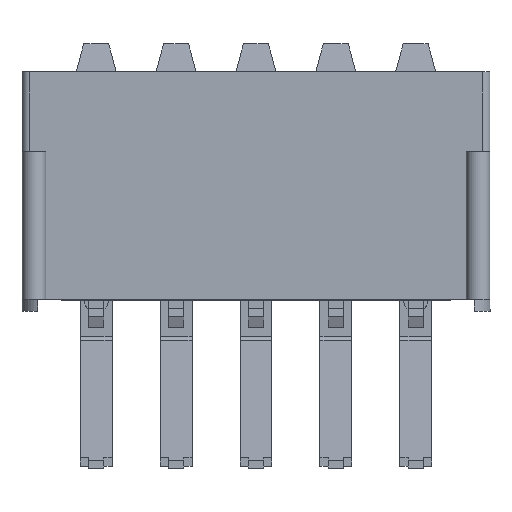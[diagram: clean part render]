
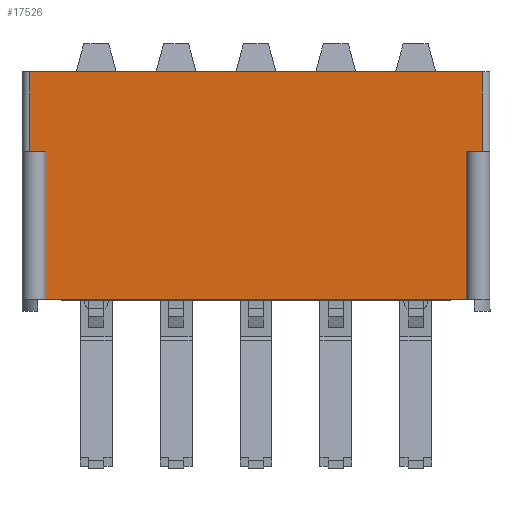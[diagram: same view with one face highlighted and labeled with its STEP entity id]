
A CAD part, front view. The second image highlights one B-rep face of the part: STEP entity #17526.
In plain terms, the highlighted planar face has unit normal (0, -1, 0).
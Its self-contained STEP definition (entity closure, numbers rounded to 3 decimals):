
#355 = CARTESIAN_POINT ( 'NONE',  ( 14.634, -9.652, 0. ) ) ;
#538 = DIRECTION ( 'NONE',  ( 1., 0., 0. ) ) ;
#994 = ORIENTED_EDGE ( 'NONE', *, *, #4171, .T. ) ;
#1123 = CARTESIAN_POINT ( 'NONE',  ( 0.762, -9.652, -2.54 ) ) ;
#1183 = VECTOR ( 'NONE', #538, 1000. ) ;
#1434 = ORIENTED_EDGE ( 'NONE', *, *, #14722, .T. ) ;
#2606 = DIRECTION ( 'NONE',  ( 0., 0., -1. ) ) ;
#2833 = LINE ( 'NONE', #11385, #19896 ) ;
#2902 = VERTEX_POINT ( 'NONE', #18917 ) ;
#3162 = CARTESIAN_POINT ( 'NONE',  ( 14.122, -9.652, -7.239 ) ) ;
#3704 = VECTOR ( 'NONE', #2606, 1000. ) ;
#4171 = EDGE_CURVE ( 'NONE', #21722, #5835, #19021, .T. ) ;
#4809 = CARTESIAN_POINT ( 'NONE',  ( 0.25, -9.652, -2.54 ) ) ;
#4929 = ORIENTED_EDGE ( 'NONE', *, *, #21841, .F. ) ;
#4940 = EDGE_CURVE ( 'NONE', #9820, #2902, #20999, .T. ) ;
#5804 = CARTESIAN_POINT ( 'NONE',  ( 0.25, -9.652, 0. ) ) ;
#5835 = VERTEX_POINT ( 'NONE', #3162 ) ;
#6271 = CARTESIAN_POINT ( 'NONE',  ( 0.762, -9.652, -7.239 ) ) ;
#6733 = DIRECTION ( 'NONE',  ( -1., 0., 0. ) ) ;
#6804 = DIRECTION ( 'NONE',  ( 0., 0., -1. ) ) ;
#7817 = DIRECTION ( 'NONE',  ( 1., 0., 0. ) ) ;
#8342 = VERTEX_POINT ( 'NONE', #355 ) ;
#8383 = CARTESIAN_POINT ( 'NONE',  ( 0.25, -9.652, -7.239 ) ) ;
#8406 = LINE ( 'NONE', #17423, #17291 ) ;
#8543 = EDGE_CURVE ( 'NONE', #19915, #21722, #17928, .T. ) ;
#9207 = LINE ( 'NONE', #5804, #9826 ) ;
#9657 = CARTESIAN_POINT ( 'NONE',  ( 14.122, -9.652, -2.54 ) ) ;
#9800 = CARTESIAN_POINT ( 'NONE',  ( 0.762, -9.652, -2.54 ) ) ;
#9820 = VERTEX_POINT ( 'NONE', #20391 ) ;
#9826 = VECTOR ( 'NONE', #7817, 1000. ) ;
#10112 = LINE ( 'NONE', #4809, #16960 ) ;
#10258 = CARTESIAN_POINT ( 'NONE',  ( 14.634, -9.652, -2.54 ) ) ;
#10398 = DIRECTION ( 'NONE',  ( 0., 0., 1. ) ) ;
#10402 = LINE ( 'NONE', #17500, #19532 ) ;
#11385 = CARTESIAN_POINT ( 'NONE',  ( 0.25, -9.652, -2.54 ) ) ;
#11596 = ORIENTED_EDGE ( 'NONE', *, *, #8543, .T. ) ;
#11607 = DIRECTION ( 'NONE',  ( 1., 0., 0. ) ) ;
#11668 = AXIS2_PLACEMENT_3D ( 'NONE', #8383, #12110, #6804 ) ;
#12106 = ORIENTED_EDGE ( 'NONE', *, *, #20194, .F. ) ;
#12110 = DIRECTION ( 'NONE',  ( 0., -1., 0. ) ) ;
#13334 = ORIENTED_EDGE ( 'NONE', *, *, #4940, .F. ) ;
#13905 = PLANE ( 'NONE',  #11668 ) ;
#14129 = ORIENTED_EDGE ( 'NONE', *, *, #14603, .T. ) ;
#14163 = CARTESIAN_POINT ( 'NONE',  ( 0.25, -9.652, -7.239 ) ) ;
#14414 = EDGE_LOOP ( 'NONE', ( #11596, #994, #4929, #1434, #14129, #12106, #13334, #18376 ) ) ;
#14603 = EDGE_CURVE ( 'NONE', #16310, #8342, #10402, .T. ) ;
#14722 = EDGE_CURVE ( 'NONE', #21688, #16310, #2833, .T. ) ;
#15728 = DIRECTION ( 'NONE',  ( 0., 0., -1. ) ) ;
#16310 = VERTEX_POINT ( 'NONE', #10258 ) ;
#16960 = VECTOR ( 'NONE', #6733, 1000. ) ;
#17268 = DIRECTION ( 'NONE',  ( 0., 0., 1. ) ) ;
#17291 = VECTOR ( 'NONE', #15728, 1000. ) ;
#17423 = CARTESIAN_POINT ( 'NONE',  ( 14.122, -9.652, -2.54 ) ) ;
#17500 = CARTESIAN_POINT ( 'NONE',  ( 14.634, -9.652, -7.239 ) ) ;
#17526 = ADVANCED_FACE ( 'NONE', ( #20679 ), #13905, .T. ) ;
#17928 = LINE ( 'NONE', #1123, #3704 ) ;
#18295 = EDGE_CURVE ( 'NONE', #19915, #9820, #10112, .T. ) ;
#18376 = ORIENTED_EDGE ( 'NONE', *, *, #18295, .F. ) ;
#18567 = VECTOR ( 'NONE', #10398, 1000. ) ;
#18917 = CARTESIAN_POINT ( 'NONE',  ( 0.25, -9.652, 0. ) ) ;
#19021 = LINE ( 'NONE', #14163, #1183 ) ;
#19532 = VECTOR ( 'NONE', #17268, 1000. ) ;
#19896 = VECTOR ( 'NONE', #11607, 1000. ) ;
#19915 = VERTEX_POINT ( 'NONE', #9800 ) ;
#20194 = EDGE_CURVE ( 'NONE', #2902, #8342, #9207, .T. ) ;
#20391 = CARTESIAN_POINT ( 'NONE',  ( 0.25, -9.652, -2.54 ) ) ;
#20679 = FACE_OUTER_BOUND ( 'NONE', #14414, .T. ) ;
#20999 = LINE ( 'NONE', #22226, #18567 ) ;
#21688 = VERTEX_POINT ( 'NONE', #9657 ) ;
#21722 = VERTEX_POINT ( 'NONE', #6271 ) ;
#21841 = EDGE_CURVE ( 'NONE', #21688, #5835, #8406, .T. ) ;
#22226 = CARTESIAN_POINT ( 'NONE',  ( 0.25, -9.652, -7.239 ) ) ;
